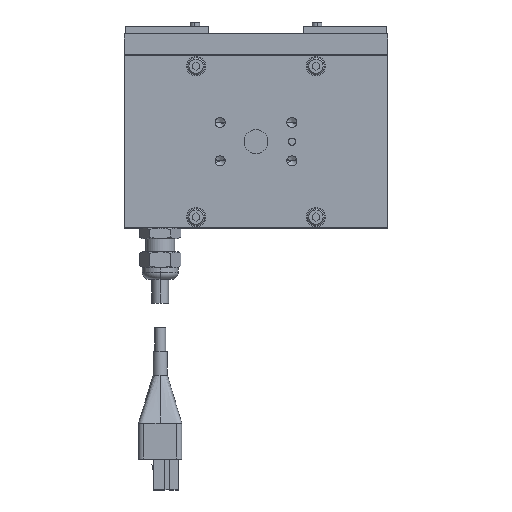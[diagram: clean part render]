
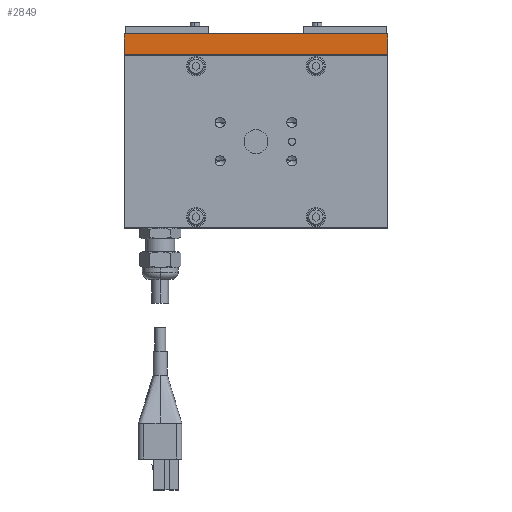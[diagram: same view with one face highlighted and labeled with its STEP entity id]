
A CAD part, top view. The second image highlights one B-rep face of the part: STEP entity #2849.
In plain terms, the highlighted planar face has unit normal (0, 0, 1).
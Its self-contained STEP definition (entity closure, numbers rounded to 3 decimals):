
#810 = DIRECTION ( 'NONE',  ( 0., -1., 0. ) ) ;
#811 = VECTOR ( 'NONE', #810, 1000. ) ;
#812 = CARTESIAN_POINT ( 'NONE',  ( 54.95, 72.5, 15. ) ) ;
#813 = LINE ( 'NONE', #812, #811 ) ;
#2789 = VERTEX_POINT ( 'NONE', #6208 ) ;
#2814 = ORIENTED_EDGE ( 'NONE', *, *, #2815, .T. ) ;
#2815 = EDGE_CURVE ( 'NONE', #2789, #18090, #6278, .T. ) ;
#2816 = EDGE_LOOP ( 'NONE', ( #2814, #3335, #19012, #19016 ) ) ;
#2849 = ADVANCED_FACE ( 'NONE', ( #6395 ), #6380, .F. ) ;
#2854 = VERTEX_POINT ( 'NONE', #6432 ) ;
#2925 = EDGE_CURVE ( 'NONE', #2854, #2789, #6561, .T. ) ;
#3335 = ORIENTED_EDGE ( 'NONE', *, *, #17730, .F. ) ;
#6104 = DIRECTION ( 'NONE',  ( -1., 0., 0. ) ) ;
#6208 = CARTESIAN_POINT ( 'NONE',  ( -54.95, 81., 15. ) ) ;
#6275 = DIRECTION ( 'NONE',  ( 0., -1., 0. ) ) ;
#6276 = VECTOR ( 'NONE', #6275, 1000. ) ;
#6277 = CARTESIAN_POINT ( 'NONE',  ( -54.95, 72.5, 15. ) ) ;
#6278 = LINE ( 'NONE', #6277, #6276 ) ;
#6380 = PLANE ( 'NONE',  #6444 ) ;
#6395 = FACE_OUTER_BOUND ( 'NONE', #2816, .T. ) ;
#6432 = CARTESIAN_POINT ( 'NONE',  ( 54.95, 81., 15. ) ) ;
#6441 = DIRECTION ( 'NONE',  ( 0., 1., 0. ) ) ;
#6442 = DIRECTION ( 'NONE',  ( 0., 0., -1. ) ) ;
#6443 = CARTESIAN_POINT ( 'NONE',  ( 54.95, 72.5, 15. ) ) ;
#6444 = AXIS2_PLACEMENT_3D ( 'NONE', #6443, #6442, #6441 ) ;
#6559 = VECTOR ( 'NONE', #6104, 1000. ) ;
#6560 = CARTESIAN_POINT ( 'NONE',  ( 54.95, 81., 15. ) ) ;
#6561 = LINE ( 'NONE', #6560, #6559 ) ;
#13959 = DIRECTION ( 'NONE',  ( -1., 0., 0. ) ) ;
#13960 = VECTOR ( 'NONE', #13959, 1000. ) ;
#13961 = CARTESIAN_POINT ( 'NONE',  ( 54.95, 72.5, 15. ) ) ;
#13962 = LINE ( 'NONE', #13961, #13960 ) ;
#15043 = CARTESIAN_POINT ( 'NONE',  ( -54.95, 72.5, 15. ) ) ;
#15044 = CARTESIAN_POINT ( 'NONE',  ( 54.95, 72.5, 15. ) ) ;
#17730 = EDGE_CURVE ( 'NONE', #18089, #18090, #13962, .T. ) ;
#18089 = VERTEX_POINT ( 'NONE', #15044 ) ;
#18090 = VERTEX_POINT ( 'NONE', #15043 ) ;
#19012 = ORIENTED_EDGE ( 'NONE', *, *, #19014, .F. ) ;
#19014 = EDGE_CURVE ( 'NONE', #2854, #18089, #813, .T. ) ;
#19016 = ORIENTED_EDGE ( 'NONE', *, *, #2925, .T. ) ;
